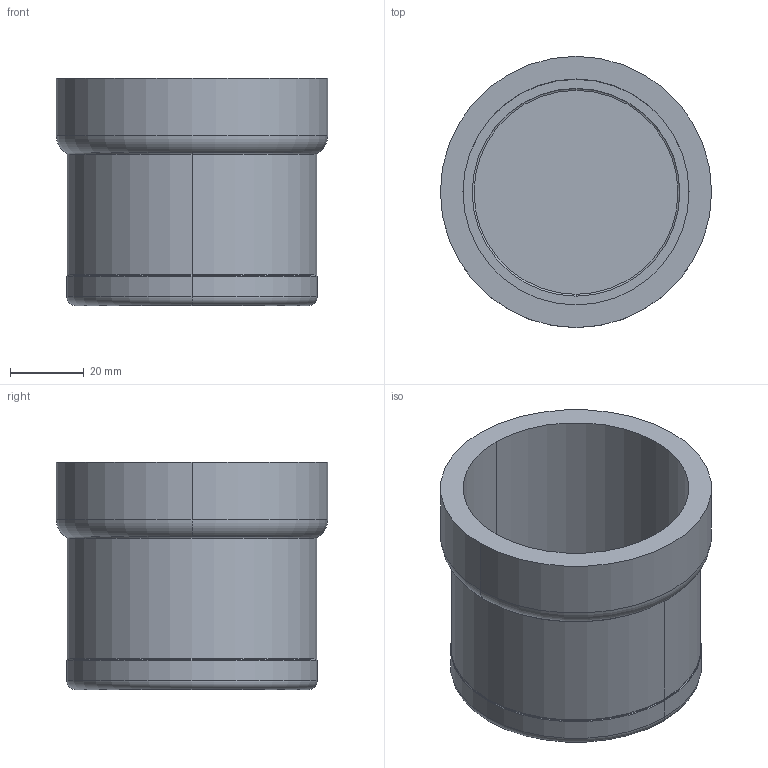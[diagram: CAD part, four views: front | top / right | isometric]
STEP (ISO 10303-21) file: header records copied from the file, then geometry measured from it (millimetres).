
FILE_DESCRIPTION(('Creo Elements/Direct Modeling STEP Export'),'2;1');
FILE_NAME('C9429_2.stp','2020-07-17T12:08:00',(''),(''),'PTC Creo Elements/Direct Modeling STEP processor for AP214 (Solid Model)','PTC Creo Elements/Direct Modeling 19.0C 15-Aug-2015 (C) Parametric Technology GmbH','');
FILE_SCHEMA(('AUTOMOTIVE_DESIGN { 1 0 10303 214 1 1 1 1 }'));
Length unit declared in the file: millimetre
Products named in the file (2): C9429_2
Assembly tree (1 placements, depth 2):
  C9429_2
    C9429_2
Bounding box: 73.8 x 73.8 x 61.8 mm (x, y, z)
Volume: 65636.6 mm3; surface area: 32625.1 mm2
Topology: 1 solids, 1 shells, 26 faces, 53 edges, 31 vertices
Faces by surface type: cylinder 10, torus 10, plane 4, cone 2
Entity records: 654 total; most frequent: DIRECTION 116, ORIENTED_EDGE 106, CARTESIAN_POINT 95, EDGE_CURVE 53, AXIS2_PLACEMENT_3D 52, VERTEX_POINT 31, EDGE_LOOP 28, FACE_OUTER_BOUND 26
